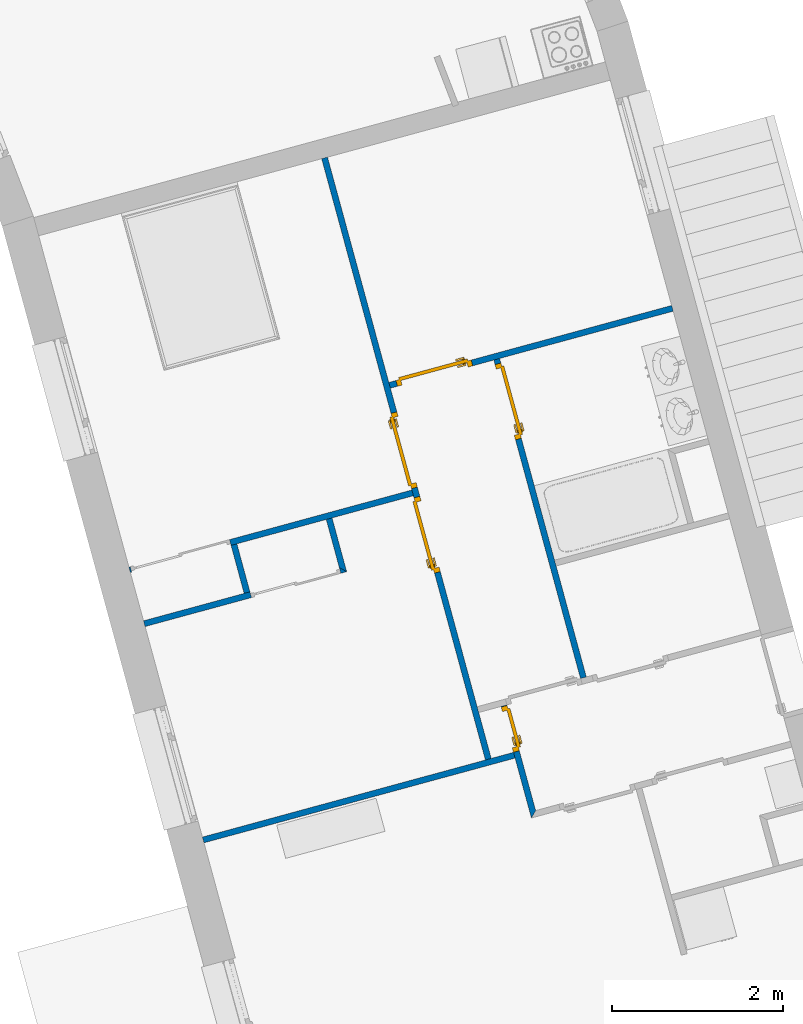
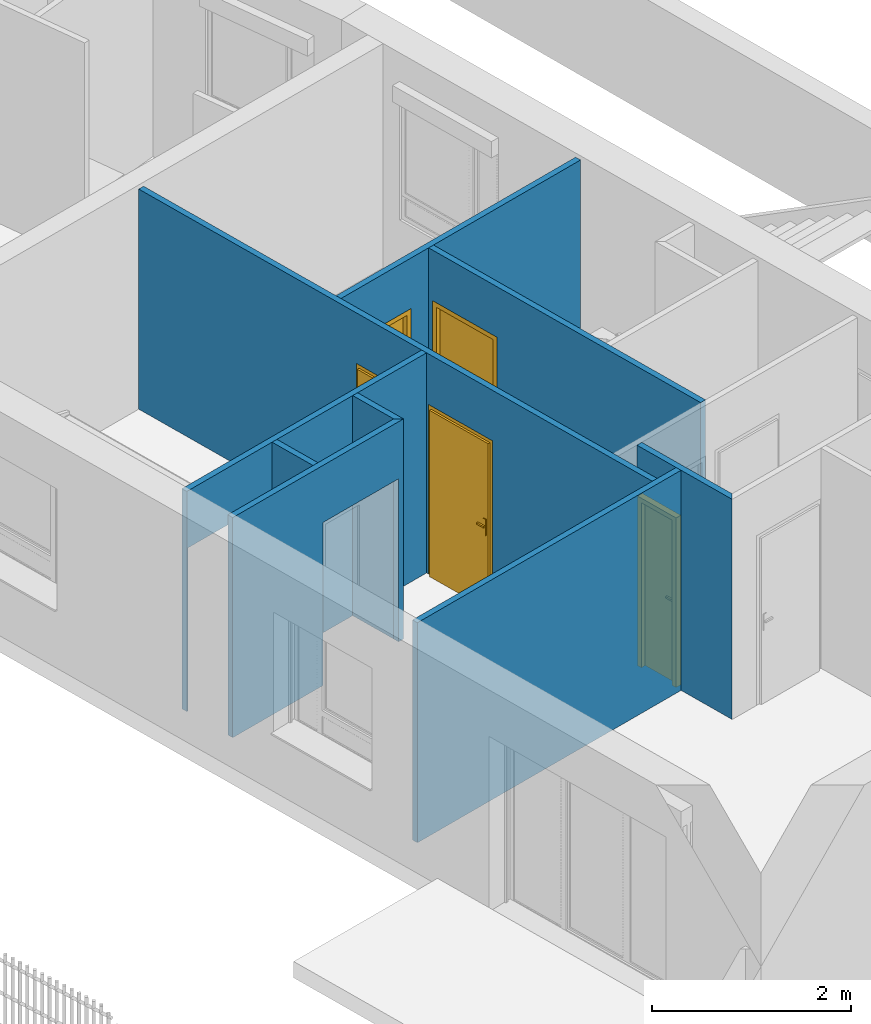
# One storey, part 73 of 195: 9 walls, 5 doors, 7 openings.
"""IFC2X3 building model written with IfcOpenShell, lengths in metres."""

from ifc_helpers import new_model, entity, si_unit, converted_unit, derived_unit, money_unit, direction, frame, origin_with_axes, origin_2d_with_axis, place, context, subcontext, project, spatial, polyline, rectangle, outline, extrude, faceted_brep, source, transform, mapped, material, layer, layer_set, layer_usage, type_object, element, fill, save


model = new_model("IFC2X3")

# Units and contexts
model_context = context("Model", 3, precision=1e-05, world=origin_with_axes(), true_north=direction((0.0, 1.0)))
body_context = subcontext(model_context, "Body", "Model", "MODEL_VIEW")
ifc_project = project(units=[si_unit("LENGTHUNIT", "METRE"), si_unit("AREAUNIT", "SQUARE_METRE"), si_unit("VOLUMEUNIT", "CUBIC_METRE"), converted_unit("PLANEANGLEUNIT", "DEGREE", entity("IfcPlaneAngleMeasure", 0.0174532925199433), si_unit("PLANEANGLEUNIT", "RADIAN"), dimensions=[0, 0, 0, 0, 0, 0, 0]), money_unit("CHF"), converted_unit("TIMEUNIT", "Year", entity("IfcTimeMeasure", 31557600.0), si_unit("TIMEUNIT", "SECOND"), dimensions=[0, 0, 1, 0, 0, 0, 0]), si_unit("MASSUNIT", "GRAM", prefix="KILO"), si_unit("THERMODYNAMICTEMPERATUREUNIT", "DEGREE_CELSIUS"), si_unit("LUMINOUSINTENSITYUNIT", "LUMEN"), si_unit("ENERGYUNIT", "JOULE", prefix="MEGA"), derived_unit("THERMALCONDUCTANCEUNIT", [(si_unit("POWERUNIT", "WATT"), 1), (si_unit("LENGTHUNIT", "METRE"), -1), (si_unit("THERMODYNAMICTEMPERATUREUNIT", "KELVIN"), -1)]), derived_unit("SPECIFICHEATCAPACITYUNIT", [(si_unit("ENERGYUNIT", "JOULE"), 1), (si_unit("MASSUNIT", "GRAM", prefix="KILO"), -1), (si_unit("THERMODYNAMICTEMPERATUREUNIT", "KELVIN"), -1)]), derived_unit("MASSDENSITYUNIT", [(si_unit("MASSUNIT", "GRAM", prefix="KILO"), 1), (si_unit("VOLUMEUNIT", "CUBIC_METRE"), -1)])], contexts=[model_context])

# Site, building, storey
site_placement = place(None, origin_with_axes())
site = spatial("IfcSite", under=ifc_project, at=site_placement, Name="Site", CompositionType="ELEMENT")
building_placement = place(site_placement, origin_with_axes())
building = spatial("IfcBuilding", under=site, at=building_placement, Name="Bâtiment", CompositionType="ELEMENT")
storey_placement = place(building_placement, origin_with_axes())
storey = spatial("IfcBuildingStorey", under=building, at=storey_placement, Name="rdc", CompositionType="ELEMENT", Elevation=0.0)

# Wall
ifc_material = material(Name="Hachure solide 268963992")
ifc_layer = layer(ifc_material, 0.07, ventilated="UNKNOWN")
ifc_layer_set = layer_set([ifc_layer], Name="Cloison 70 0826278243")
ifc_layer_usage_1 = layer_usage(ifc_layer_set, "AXIS2", "POSITIVE", 0.0)
wall_type = type_object("IfcWallType", Name="Cloison 70 0826278243 70", PredefinedType="NOTDEFINED")
wall_1_placement = place(storey_placement, frame((9592.341239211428, -1053.21933918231, 57.7), z_axis=(0.0, 0.0, 1.0), x_axis=(-0.9648682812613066, -0.2627340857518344, 0.0)))
element("IfcWallStandardCase", 1, at=wall_1_placement, inside=storey, type_object=wall_type, material=ifc_layer_usage_1, Name="Mur-149", context=body_context, shape_type="SweptSolid", body=[
    extrude(outline(polyline([(-3.088871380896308e-10, 0.0), (3.76114517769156, 0.0), (3.761145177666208, 0.06999999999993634), (-3.249169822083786e-10, 0.06999999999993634), (-3.088871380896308e-10, 0.0)])), origin_with_axes(), (0.0, 0.0, 1.0), 2.7),
])

# Wall, opening, door
ifc_layer_usage_2 = layer_usage(ifc_layer_set, "AXIS2", "NEGATIVE", 0.0)
wall_2_placement = place(storey_placement, frame((9594.57030147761, -1047.974425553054, 57.7), z_axis=(0.0, 0.0, 1.0), x_axis=(-0.9648682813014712, -0.2627340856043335, 0.0)))
wall_2 = element("IfcWallStandardCase", 2, at=wall_2_placement, inside=storey, type_object=wall_type, material=ifc_layer_usage_2, Name="Mur-149", context=body_context, shape_type="SweptSolid", body=[
    extrude(outline(polyline([(0.3800000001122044, -0.07000000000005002), (3.798769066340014, -0.07000000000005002), (3.798769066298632, 0.0), (0.3800000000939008, 0.0), (0.3800000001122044, -0.07000000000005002)])), origin_with_axes(), (0.0, 0.0, 1.0), 2.7),
])
opening_1_placement = place(wall_2_placement, frame((3.258124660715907, 0.0, 0.0), z_axis=(0.0, 0.0, 1.0), x_axis=(1.0, 0.0, 0.0)))
opening_1 = element("IfcOpeningElement", 3, at=opening_1_placement, cuts=wall_2, Name="Por-303", context=body_context, shape_type="SweptSolid", body=[
    extrude(rectangle(XDim=0.9099999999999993, YDim=2.079999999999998, at=origin_2d_with_axis()), frame((0.0, 0.06999999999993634, 1.039999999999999), z_axis=(0.0, 1.0, 0.0), x_axis=(1.0, 0.0, 0.0)), (0.0, 0.0, -1.0), 0.14),
])
door_style = type_object("IfcDoorStyle", Name="Porte_1v", ConstructionType="NOTDEFINED", OperationType="NOTDEFINED", ParameterTakesPrecedence=False, Sizeable=False)
shared_shape_1 = source(origin_with_axes(), body_context, "Body", "Brep", [
    faceted_brep([(-0.455, 0.0, 0.0), (-0.455, 0.0, 2.08), (0.455, 0.0, 2.08), (0.455, 0.0, 0.0), (0.415, 0.0, 0.0), (0.415, 0.0, 2.04), (-0.415, 0.0, 2.04), (-0.415, 0.0, 0.0), (-0.455, -0.07, 0.0), (-0.455, -0.07, 2.08), (0.455, -0.07, 2.08), (0.455, -0.07, 0.0), (0.4, -0.07, 0.0), (0.4, -0.015, 0.0), (0.415, -0.015, 0.0), (0.415, -0.015, 2.04), (-0.415, -0.015, 2.04), (-0.415, -0.015, 0.0), (-0.4, -0.015, 0.0), (-0.4, -0.07, 0.0), (-0.4, -0.07, 2.025), (0.4, -0.07, 2.025), (0.4, -0.015, 2.025), (-0.4, -0.015, 2.025)], [[[0, 1, 2, 3, 4, 5, 6, 7]], [[8, 9, 1, 0]], [[9, 10, 2, 1]], [[10, 11, 3, 2]], [[3, 11, 12, 13, 14, 4]], [[5, 4, 14, 15]], [[6, 5, 15, 16]], [[7, 6, 16, 17]], [[0, 7, 17, 18, 19, 8]], [[19, 20, 21, 12, 11, 10, 9, 8]], [[22, 13, 12, 21]], [[17, 16, 15, 14, 13, 22, 23, 18]], [[18, 23, 20, 19]], [[23, 22, 21, 20]]]),
    faceted_brep([(0.35, -0.015, 0.9), (0.35, -0.015, 1.1), (0.39, -0.015, 1.1), (0.39, -0.015, 0.9), (0.35, -0.025, 0.9), (0.35, -0.025, 1.1), (0.39, -0.025, 1.1), (0.39, -0.025, 0.9)], [[[0, 1, 2, 3]], [[0, 4, 5, 1]], [[1, 5, 6, 2]], [[2, 6, 7, 3]], [[3, 7, 4, 0]], [[7, 6, 5, 4]]]),
    faceted_brep([(0.28, -0.025, 1.0), (0.28, -0.025, 1.02), (0.38, -0.025, 1.02), (0.38, -0.025, 1.0), (0.28, -0.045, 1.0), (0.28, -0.045, 1.02), (0.38, -0.045, 1.02), (0.38, -0.045, 1.0)], [[[0, 1, 2, 3]], [[0, 4, 5, 1]], [[1, 5, 6, 2]], [[2, 6, 7, 3]], [[3, 7, 4, 0]], [[7, 6, 5, 4]]]),
    faceted_brep([(0.35, 0.035, 0.9), (0.35, 0.035, 1.1), (0.39, 0.035, 1.1), (0.39, 0.035, 0.9), (0.35, 0.025, 0.9), (0.35, 0.025, 1.1), (0.39, 0.025, 1.1), (0.39, 0.025, 0.9)], [[[0, 1, 2, 3]], [[0, 4, 5, 1]], [[1, 5, 6, 2]], [[2, 6, 7, 3]], [[3, 7, 4, 0]], [[7, 6, 5, 4]]]),
    faceted_brep([(0.28, 0.05500000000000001, 1.0), (0.28, 0.05500000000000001, 1.02), (0.38, 0.05500000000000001, 1.02), (0.38, 0.05500000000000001, 1.0), (0.28, 0.035, 1.0), (0.28, 0.035, 1.02), (0.38, 0.035, 1.02), (0.38, 0.035, 1.0)], [[[0, 1, 2, 3]], [[0, 4, 5, 1]], [[1, 5, 6, 2]], [[2, 6, 7, 3]], [[3, 7, 4, 0]], [[7, 6, 5, 4]]]),
    faceted_brep([(0.415, 0.025, 0.0), (0.415, -0.015, 0.0), (-0.415, -0.015, 0.0), (-0.415, 0.025, 0.0), (0.415, 0.025, 2.04), (0.415, -0.015, 2.04), (-0.415, -0.015, 2.04), (-0.415, 0.025, 2.04)], [[[0, 1, 2, 3]], [[4, 5, 1, 0]], [[1, 5, 6, 2]], [[3, 2, 6, 7]], [[0, 3, 7, 4]], [[7, 6, 5, 4]]]),
])
door_1_placement = place(opening_1_placement, frame((0.4150000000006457, 0.0, 0.0), z_axis=(0.0, 0.0, 1.0), x_axis=(-1.0, 0.0, 0.0)))
door_1 = element("IfcDoor", 4, at=door_1_placement, inside=storey, type_object=door_style, Name="Por-303", OverallHeight=2.04, OverallWidth=0.83, context=body_context, shape_type="MappedRepresentation", body=[
    mapped(shared_shape_1, transform((0.4149999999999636, 0.06999999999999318, 0.0))),
])
fill(opening_1, door_1)

# Wall
ifc_layer_usage_3 = layer_usage(ifc_layer_set, "AXIS2", "NEGATIVE", 0.0)
wall_3_placement = place(storey_placement, frame((9589.217479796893, -1051.432975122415, 57.7), z_axis=(0.0, 0.0, 1.0), x_axis=(-0.2627340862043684, 0.9648682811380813, 0.0)))
element("IfcWallStandardCase", 5, at=wall_3_placement, inside=storey, type_object=wall_type, material=ifc_layer_usage_3, Name="Mur-149", context=body_context, shape_type="SweptSolid", body=[
    extrude(outline(polyline([(0.07000000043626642, -0.07000000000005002), (0.6499928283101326, -0.06999999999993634), (0.6499928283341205, 0.0), (0.07000000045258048, 0.0), (0.07000000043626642, -0.07000000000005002)])), origin_with_axes(), (0.0, 0.0, 1.0), 2.7),
])

# Wall, opening
ifc_layer_usage_4 = layer_usage(ifc_layer_set, "AXIS2", "NEGATIVE", 0.0)
wall_4_placement = place(storey_placement, frame((9591.241468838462, -1050.20818230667, 57.7), z_axis=(0.0, 0.0, 1.0), x_axis=(-0.9648682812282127, -0.2627340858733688, 0.0)))
wall_4 = element("IfcWallStandardCase", 6, at=wall_4_placement, inside=storey, type_object=wall_type, material=ifc_layer_usage_4, Name="Mur-149", context=body_context, shape_type="SweptSolid", body=[
    extrude(outline(polyline([(0.07000000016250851, -0.06999999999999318), (3.491145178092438, -0.06999999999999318), (3.491145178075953, 0.0), (0.07000000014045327, 0.0), (0.07000000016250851, -0.06999999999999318)])), origin_with_axes(), (0.0, 0.0, 1.0), 2.7),
])
opening_2_placement = place(wall_4_placement, frame((2.874846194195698, 0.0, 0.0), z_axis=(0.0, 0.0, 1.0), x_axis=(1.0, 0.0, 0.0)))
element("IfcOpeningElement", 7, at=opening_2_placement, cuts=wall_4, Name="Por-353", context=body_context, shape_type="SweptSolid", body=[
    extrude(rectangle(XDim=1.200337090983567, YDim=2.0, at=origin_2d_with_axis()), frame((0.0, -0.06999999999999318, 1.0), z_axis=(0.0, 1.0, 0.0), x_axis=(1.0, 0.0, 0.0)), (0.0, 0.0, -1.0), 0.07),
    extrude(rectangle(XDim=1.200337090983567, YDim=2.0, at=origin_2d_with_axis()), frame((0.0, -0.06999999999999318, 1.0), z_axis=(0.0, -1.0, 0.0), x_axis=(1.0, 0.0, 0.0)), (0.0, 0.0, -1.0), 0.07),
])

# Wall, openings, doors
ifc_layer_usage_5 = layer_usage(ifc_layer_set, "AXIS2", "NEGATIVE", 0.0)
wall_5_placement = place(storey_placement, frame((9590.113253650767, -1046.064909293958, 57.7), z_axis=(0.0, 0.0, 1.0), x_axis=(0.2627340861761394, -0.9648682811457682, 0.0)))
wall_5 = element("IfcWallStandardCase", 8, at=wall_5_placement, inside=storey, type_object=wall_type, material=ifc_layer_usage_5, Name="Mur-149", context=body_context, shape_type="SweptSolid", body=[
    extrude(outline(polyline([(0.2199999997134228, -0.07000000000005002), (7.488450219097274, -0.07000000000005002), (7.488450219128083, 0.0), (0.2199999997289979, 0.0), (0.2199999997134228, -0.07000000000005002)])), origin_with_axes(), (0.0, 0.0, 1.0), 2.7),
])
opening_3_placement = place(wall_5_placement, frame((3.753835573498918, 0.0, 0.0), z_axis=(0.0, 0.0, 1.0), x_axis=(1.0, 0.0, 0.0)))
opening_3 = element("IfcOpeningElement", 9, at=opening_3_placement, cuts=wall_5, Name="Por-301", context=body_context, shape_type="SweptSolid", body=[
    extrude(rectangle(XDim=0.9099999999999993, YDim=2.079999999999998, at=origin_2d_with_axis()), frame((0.0, 0.07000000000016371, 1.039999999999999), z_axis=(0.0, 1.0, 0.0), x_axis=(1.0, 0.0, 0.0)), (0.0, 0.0, -1.0), 0.14),
])
opening_4_placement = place(wall_5_placement, frame((4.775037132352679, 0.0, 0.0), z_axis=(0.0, 0.0, 1.0), x_axis=(1.0, 0.0, 0.0)))
opening_4 = element("IfcOpeningElement", 10, at=opening_4_placement, cuts=wall_5, Name="Por-302", context=body_context, shape_type="SweptSolid", body=[
    extrude(rectangle(XDim=0.9099999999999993, YDim=2.079999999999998, at=origin_2d_with_axis()), frame((0.0, 0.06999999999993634, 1.039999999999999), z_axis=(0.0, -1.0, 0.0), x_axis=(-1.0, 0.0, 0.0)), (0.0, 0.0, 1.0), 0.14),
])
shared_shape_2 = source(origin_with_axes(), body_context, "Body", "Brep", [
    faceted_brep([(0.455, 0.0, 0.0), (0.415, 0.0, 0.0), (0.415, 0.0, 2.04), (-0.415, 0.0, 2.04), (-0.415, 0.0, 0.0), (-0.455, 0.0, 0.0), (-0.455, 0.0, 2.08), (0.455, 0.0, 2.08), (0.455, -0.07, 0.0), (0.4, -0.07, 0.0), (0.4, -0.015, 0.0), (0.415, -0.015, 0.0), (0.415, -0.015, 2.04), (-0.415, -0.015, 2.04), (-0.415, -0.015, 0.0), (-0.4, -0.015, 0.0), (-0.4, -0.07, 0.0), (-0.455, -0.07, 0.0), (-0.455, -0.07, 2.08), (0.455, -0.07, 2.08), (-0.4, -0.07, 2.025), (0.4, -0.07, 2.025), (0.4, -0.015, 2.025), (-0.4, -0.015, 2.025)], [[[0, 1, 2, 3, 4, 5, 6, 7]], [[0, 8, 9, 10, 11, 1]], [[1, 11, 12, 2]], [[2, 12, 13, 3]], [[3, 13, 14, 4]], [[5, 4, 14, 15, 16, 17]], [[18, 6, 5, 17]], [[19, 7, 6, 18]], [[8, 0, 7, 19]], [[9, 8, 19, 18, 17, 16, 20, 21]], [[10, 9, 21, 22]], [[11, 10, 22, 23, 15, 14, 13, 12]], [[23, 20, 16, 15]], [[22, 21, 20, 23]]]),
    faceted_brep([(-0.35, -0.015, 0.9), (-0.39, -0.015, 0.9), (-0.39, -0.015, 1.1), (-0.35, -0.015, 1.1), (-0.35, -0.025, 0.9), (-0.39, -0.025, 0.9), (-0.39, -0.025, 1.1), (-0.35, -0.025, 1.1)], [[[0, 1, 2, 3]], [[1, 0, 4, 5]], [[2, 1, 5, 6]], [[3, 2, 6, 7]], [[0, 3, 7, 4]], [[5, 4, 7, 6]]]),
    faceted_brep([(-0.28, -0.025, 1.0), (-0.38, -0.025, 1.0), (-0.38, -0.025, 1.02), (-0.28, -0.025, 1.02), (-0.28, -0.045, 1.0), (-0.38, -0.045, 1.0), (-0.38, -0.045, 1.02), (-0.28, -0.045, 1.02)], [[[0, 1, 2, 3]], [[1, 0, 4, 5]], [[2, 1, 5, 6]], [[3, 2, 6, 7]], [[0, 3, 7, 4]], [[5, 4, 7, 6]]]),
    faceted_brep([(-0.35, 0.035, 0.9), (-0.39, 0.035, 0.9), (-0.39, 0.035, 1.1), (-0.35, 0.035, 1.1), (-0.35, 0.025, 0.9), (-0.39, 0.025, 0.9), (-0.39, 0.025, 1.1), (-0.35, 0.025, 1.1)], [[[0, 1, 2, 3]], [[1, 0, 4, 5]], [[2, 1, 5, 6]], [[3, 2, 6, 7]], [[0, 3, 7, 4]], [[5, 4, 7, 6]]]),
    faceted_brep([(-0.28, 0.05500000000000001, 1.0), (-0.38, 0.05500000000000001, 1.0), (-0.38, 0.05500000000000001, 1.02), (-0.28, 0.05500000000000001, 1.02), (-0.28, 0.035, 1.0), (-0.38, 0.035, 1.0), (-0.38, 0.035, 1.02), (-0.28, 0.035, 1.02)], [[[0, 1, 2, 3]], [[1, 0, 4, 5]], [[2, 1, 5, 6]], [[3, 2, 6, 7]], [[0, 3, 7, 4]], [[5, 4, 7, 6]]]),
    faceted_brep([(-0.415, 0.025, 0.0), (0.415, 0.025, 0.0), (0.415, -0.015, 0.0), (-0.415, -0.015, 0.0), (-0.415, 0.025, 2.04), (0.415, 0.025, 2.04), (0.415, -0.015, 2.04), (-0.415, -0.015, 2.04)], [[[0, 1, 2, 3]], [[0, 4, 5, 1]], [[1, 5, 6, 2]], [[3, 2, 6, 7]], [[4, 0, 3, 7]], [[5, 4, 7, 6]]]),
])
door_2_placement = place(opening_4_placement, frame((0.415000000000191, 0.0, 0.0), z_axis=(0.0, 0.0, 1.0), x_axis=(-1.0, 0.0, 0.0)))
door_2 = element("IfcDoor", 11, at=door_2_placement, inside=storey, type_object=door_style, Name="Por-302", OverallHeight=2.04, OverallWidth=0.83, context=body_context, shape_type="MappedRepresentation", body=[
    mapped(shared_shape_2, transform((0.4150000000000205, 0.07000000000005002, 0.0))),
])
fill(opening_4, door_2)
door_3_placement = place(opening_3_placement, frame((0.4150000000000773, 0.0, 0.0), z_axis=(0.0, 0.0, 1.0), x_axis=(-1.0, 0.0, 0.0)))
door_3 = element("IfcDoor", 12, at=door_3_placement, inside=storey, type_object=door_style, Name="Por-301", OverallHeight=2.04, OverallWidth=0.83, context=body_context, shape_type="MappedRepresentation", body=[
    mapped(shared_shape_1, transform((0.4150000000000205, 0.07000000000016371, 0.0))),
])
fill(opening_3, door_3)

# Wall
ifc_layer_usage_6 = layer_usage(ifc_layer_set, "AXIS2", "NEGATIVE", 0.0)
wall_6_placement = place(storey_placement, frame((9590.327436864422, -1051.130733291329, 57.7), z_axis=(0.0, 0.0, 1.0), x_axis=(-0.2627340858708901, 0.9648682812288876, 0.0)))
element("IfcWallStandardCase", 13, at=wall_6_placement, inside=storey, type_object=wall_type, material=ifc_layer_usage_6, Name="Mur-149", context=body_context, shape_type="SweptSolid", body=[
    extrude(outline(polyline([(0.0, -0.07000000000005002), (0.6499928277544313, -0.07000000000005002), (0.6499928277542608, 0.0), (0.07000000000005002, 0.0), (0.0, -0.07000000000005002)])), origin_with_axes(), (0.0, 0.0, 1.0), 2.7),
])

# Wall, opening
ifc_layer_usage_7 = layer_usage(ifc_layer_set, "AXIS2", "NEGATIVE", 0.0)
wall_7_placement = place(storey_placement, frame((9590.327436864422, -1051.130733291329, 57.7), z_axis=(0.0, 0.0, 1.0), x_axis=(-0.9648682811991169, -0.2627340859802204, 0.0)))
wall_7 = element("IfcWallStandardCase", 14, at=wall_7_placement, inside=storey, type_object=wall_type, material=ifc_layer_usage_7, Name="Mur-149", context=body_context, shape_type="SweptSolid", body=[
    extrude(outline(polyline([(0.0, -0.06999999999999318), (2.366839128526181, -0.06999999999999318), (2.366839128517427, 0.0), (-0.07000000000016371, 0.0), (0.0, -0.06999999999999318)])), origin_with_axes(), (0.0, 0.0, 1.0), 2.7),
])
opening_5_placement = place(wall_7_placement, frame((0.5401857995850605, 0.0, 0.0), z_axis=(0.0, 0.0, 1.0), x_axis=(1.0, 0.0, 0.0)))
element("IfcOpeningElement", 15, at=opening_5_placement, cuts=wall_7, Name="Por-352", context=body_context, shape_type="SweptSolid", body=[
    extrude(rectangle(XDim=1.080371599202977, YDim=2.0, at=origin_2d_with_axis()), frame((0.0, 0.0, 1.0), z_axis=(0.0, -1.0, 0.0), x_axis=(1.0, 0.0, 0.0)), (0.0, 0.0, -1.0), 0.07),
    extrude(rectangle(XDim=1.080371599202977, YDim=2.0, at=origin_2d_with_axis()), frame((0.0, 0.0, 1.0), z_axis=(0.0, 1.0, 0.0), x_axis=(1.0, 0.0, 0.0)), (0.0, 0.0, -1.0), 0.07),
])

# Wall, opening, door
ifc_layer_usage_8 = layer_usage(ifc_layer_set, "AXIS2", "NEGATIVE", 0.0)
wall_8_placement = place(storey_placement, frame((9592.549742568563, -1053.985049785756, 57.7), z_axis=(0.0, 0.0, 1.0), x_axis=(-0.2627340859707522, 0.9648682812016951, 0.0)))
wall_8 = element("IfcWallStandardCase", 16, at=wall_8_placement, inside=storey, type_object=wall_type, material=ifc_layer_usage_8, Name="Mur-149", context=body_context, shape_type="SweptSolid", body=[
    extrude(outline(polyline([(0.07000000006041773, -0.07000000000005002), (1.348501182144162, -0.07000000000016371), (1.348501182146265, 0.0), (0.0, 0.0), (0.07000000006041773, -0.07000000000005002)])), origin_with_axes(), (0.0, 0.0, 1.0), 2.7),
])
opening_6_placement = place(wall_8_placement, frame((1.067283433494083, 0.0, 0.0), z_axis=(0.0, 0.0, 1.0), x_axis=(1.0, 0.0, 0.0)))
opening_6 = element("IfcOpeningElement", 17, at=opening_6_placement, cuts=wall_8, Name="Por-320", context=body_context, shape_type="SweptSolid", body=[
    extrude(rectangle(XDim=0.547405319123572, YDim=2.079999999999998, at=origin_2d_with_axis()), frame((-2.722629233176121e-09, 0.07000000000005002, 1.039999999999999), z_axis=(0.0, 1.0, 0.0), x_axis=(1.0, 0.0, 0.0)), (0.0, 0.0, -1.0), 0.14),
])
shared_shape_3 = source(origin_with_axes(), body_context, "Body", "Brep", [
    faceted_brep([(-0.2737026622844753, 0.0, 0.0), (-0.2737026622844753, 0.0, 2.08), (0.2737026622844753, 0.0, 2.08), (0.2737026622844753, 0.0, 0.0), (0.2337026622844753, 0.0, 0.0), (0.2337026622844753, 0.0, 2.04), (-0.2337026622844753, 0.0, 2.04), (-0.2337026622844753, 0.0, 0.0), (-0.2737026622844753, -0.07, 0.0), (-0.2737026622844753, -0.07, 2.08), (0.2737026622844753, -0.07, 2.08), (0.2737026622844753, -0.07, 0.0), (0.2187026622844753, -0.07, 0.0), (0.2187026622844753, -0.015, 0.0), (0.2337026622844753, -0.015, 0.0), (0.2337026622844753, -0.015, 2.04), (-0.2337026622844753, -0.015, 2.04), (-0.2337026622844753, -0.015, 0.0), (-0.2187026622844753, -0.015, 0.0), (-0.2187026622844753, -0.07, 0.0), (-0.2187026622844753, -0.07, 2.025), (0.2187026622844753, -0.07, 2.025), (0.2187026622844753, -0.015, 2.025), (-0.2187026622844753, -0.015, 2.025)], [[[0, 1, 2, 3, 4, 5, 6, 7]], [[8, 9, 1, 0]], [[9, 10, 2, 1]], [[10, 11, 3, 2]], [[3, 11, 12, 13, 14, 4]], [[5, 4, 14, 15]], [[6, 5, 15, 16]], [[7, 6, 16, 17]], [[0, 7, 17, 18, 19, 8]], [[19, 20, 21, 12, 11, 10, 9, 8]], [[22, 13, 12, 21]], [[17, 16, 15, 14, 13, 22, 23, 18]], [[18, 23, 20, 19]], [[23, 22, 21, 20]]]),
    faceted_brep([(0.1687026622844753, -0.015, 0.9), (0.1687026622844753, -0.015, 1.1), (0.2087026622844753, -0.015, 1.1), (0.2087026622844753, -0.015, 0.9), (0.1687026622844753, -0.025, 0.9), (0.1687026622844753, -0.025, 1.1), (0.2087026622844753, -0.025, 1.1), (0.2087026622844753, -0.025, 0.9)], [[[0, 1, 2, 3]], [[0, 4, 5, 1]], [[1, 5, 6, 2]], [[2, 6, 7, 3]], [[3, 7, 4, 0]], [[7, 6, 5, 4]]]),
    faceted_brep([(0.0987026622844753, -0.025, 1.0), (0.0987026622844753, -0.025, 1.02), (0.1987026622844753, -0.025, 1.02), (0.1987026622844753, -0.025, 1.0), (0.0987026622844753, -0.045, 1.0), (0.0987026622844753, -0.045, 1.02), (0.1987026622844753, -0.045, 1.02), (0.1987026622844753, -0.045, 1.0)], [[[0, 1, 2, 3]], [[0, 4, 5, 1]], [[1, 5, 6, 2]], [[2, 6, 7, 3]], [[3, 7, 4, 0]], [[7, 6, 5, 4]]]),
    faceted_brep([(0.1687026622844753, 0.035, 0.9), (0.1687026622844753, 0.035, 1.1), (0.2087026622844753, 0.035, 1.1), (0.2087026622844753, 0.035, 0.9), (0.1687026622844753, 0.025, 0.9), (0.1687026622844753, 0.025, 1.1), (0.2087026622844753, 0.025, 1.1), (0.2087026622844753, 0.025, 0.9)], [[[0, 1, 2, 3]], [[0, 4, 5, 1]], [[1, 5, 6, 2]], [[2, 6, 7, 3]], [[3, 7, 4, 0]], [[7, 6, 5, 4]]]),
    faceted_brep([(0.0987026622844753, 0.05500000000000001, 1.0), (0.0987026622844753, 0.05500000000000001, 1.02), (0.1987026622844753, 0.05500000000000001, 1.02), (0.1987026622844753, 0.05500000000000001, 1.0), (0.0987026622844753, 0.035, 1.0), (0.0987026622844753, 0.035, 1.02), (0.1987026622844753, 0.035, 1.02), (0.1987026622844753, 0.035, 1.0)], [[[0, 1, 2, 3]], [[0, 4, 5, 1]], [[1, 5, 6, 2]], [[2, 6, 7, 3]], [[3, 7, 4, 0]], [[7, 6, 5, 4]]]),
    faceted_brep([(0.2337026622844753, 0.025, 0.0), (0.2337026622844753, -0.015, 0.0), (-0.2337026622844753, -0.015, 0.0), (-0.2337026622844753, 0.025, 0.0), (0.2337026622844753, 0.025, 2.04), (0.2337026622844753, -0.015, 2.04), (-0.2337026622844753, -0.015, 2.04), (-0.2337026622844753, 0.025, 2.04)], [[[0, 1, 2, 3]], [[4, 5, 1, 0]], [[1, 5, 6, 2]], [[3, 2, 6, 7]], [[0, 3, 7, 4]], [[7, 6, 5, 4]]]),
])
door_4_placement = place(opening_6_placement, frame((0.2337026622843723, 0.0, 0.0), z_axis=(0.0, 0.0, 1.0), x_axis=(-1.0, 0.0, 0.0)))
door_4 = element("IfcDoor", 18, at=door_4_placement, inside=storey, type_object=door_style, Name="Por-320", OverallHeight=2.04, OverallWidth=0.467405, context=body_context, shape_type="MappedRepresentation", body=[
    mapped(shared_shape_3, transform((0.233702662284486, 0.07000000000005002, 0.0))),
])
fill(opening_6, door_4)

ifc_layer_usage_9 = layer_usage(ifc_layer_set, "AXIS2", "NEGATIVE", 0.0)
wall_9_placement = place(storey_placement, frame((9592.178615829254, -1048.625682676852, 57.7), z_axis=(0.0, 0.0, 1.0), x_axis=(0.262734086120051, -0.9648682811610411, 0.0)))
wall_9 = element("IfcWallStandardCase", 19, at=wall_9_placement, inside=storey, type_object=wall_type, material=ifc_layer_usage_9, Name="Mur-149", context=body_context, shape_type="SweptSolid", body=[
    extrude(outline(polyline([(1.11924691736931e-10, -0.06999999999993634), (3.850089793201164, -0.07000000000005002), (3.850089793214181, 0.0), (1.493276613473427e-10, 0.0), (1.11924691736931e-10, -0.06999999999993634)])), origin_with_axes(), (0.0, 0.0, 1.0), 2.7),
])
opening_7_placement = place(wall_9_placement, frame((0.5097203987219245, 0.0, 0.0), z_axis=(0.0, 0.0, 1.0), x_axis=(1.0, 0.0, 0.0)))
opening_7 = element("IfcOpeningElement", 20, at=opening_7_placement, cuts=wall_9, Name="Por-299", context=body_context, shape_type="SweptSolid", body=[
    extrude(rectangle(XDim=0.9099999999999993, YDim=2.079999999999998, at=origin_2d_with_axis()), frame((0.0, -0.07000000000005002, 1.039999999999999), z_axis=(0.0, -1.0, 0.0), x_axis=(-1.0, 0.0, 0.0)), (0.0, 0.0, -1.0), 0.14),
])
door_5_placement = place(opening_7_placement, frame((-0.415000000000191, 0.0, 0.0), z_axis=(0.0, 0.0, 1.0), x_axis=(1.0, 0.0, 0.0)))
door_5 = element("IfcDoor", 21, at=door_5_placement, inside=storey, type_object=door_style, Name="Por-299", OverallHeight=2.04, OverallWidth=0.83, context=body_context, shape_type="MappedRepresentation", body=[
    mapped(shared_shape_1, transform((0.4150000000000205, 0.0, 0.0))),
])
fill(opening_7, door_5)

save(model, "model.ifc")
